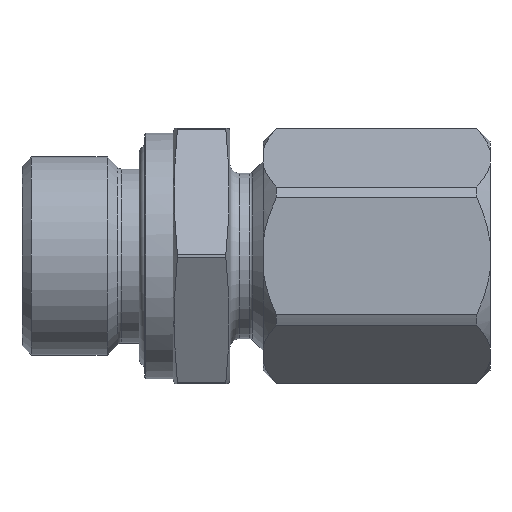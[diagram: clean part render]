
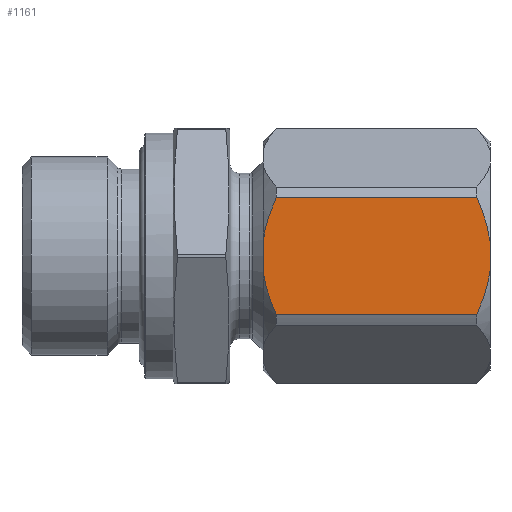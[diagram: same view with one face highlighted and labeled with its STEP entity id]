
A CAD part, front view. The second image highlights one B-rep face of the part: STEP entity #1161.
In plain terms, the highlighted planar face has unit normal (0, -1, 0).
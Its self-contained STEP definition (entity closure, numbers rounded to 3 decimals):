
#117=PLANE('',#1541);
#157=FACE_OUTER_BOUND('',#463,.T.);
#193=LINE('',#2315,#239);
#194=LINE('',#2317,#240);
#198=LINE('',#2397,#244);
#206=LINE('',#2408,#252);
#239=VECTOR('',#1841,1.);
#240=VECTOR('',#1844,1.);
#244=VECTOR('',#1876,1.);
#252=VECTOR('',#1888,1.);
#312=B_SPLINE_CURVE_WITH_KNOTS('',3,(#2265,#2266,#2267,#2268),
 .UNSPECIFIED.,.F.,.F.,(4,4),(0.,1.),.UNSPECIFIED.);
#313=B_SPLINE_CURVE_WITH_KNOTS('',3,(#2272,#2273,#2274,#2275),
 .UNSPECIFIED.,.F.,.F.,(4,4),(0.,1.),.UNSPECIFIED.);
#324=B_SPLINE_CURVE_WITH_KNOTS('',3,(#2378,#2379,#2380,#2381),
 .UNSPECIFIED.,.F.,.F.,(4,4),(0.,1.),.UNSPECIFIED.);
#325=B_SPLINE_CURVE_WITH_KNOTS('',3,(#2383,#2384,#2385,#2386),
 .UNSPECIFIED.,.F.,.F.,(4,4),(0.,1.),.UNSPECIFIED.);
#463=EDGE_LOOP('',(#742,#743,#744,#745,#746,#747,#748,#749));
#742=ORIENTED_EDGE('',*,*,#963,.T.);
#743=ORIENTED_EDGE('',*,*,#969,.F.);
#744=ORIENTED_EDGE('',*,*,#964,.T.);
#745=ORIENTED_EDGE('',*,*,#946,.T.);
#746=ORIENTED_EDGE('',*,*,#927,.T.);
#747=ORIENTED_EDGE('',*,*,#978,.T.);
#748=ORIENTED_EDGE('',*,*,#925,.T.);
#749=ORIENTED_EDGE('',*,*,#945,.T.);
#925=EDGE_CURVE('',#1357,#1356,#312,.T.);
#927=EDGE_CURVE('',#1358,#1359,#313,.T.);
#945=EDGE_CURVE('',#1356,#1371,#193,.T.);
#946=EDGE_CURVE('',#1372,#1358,#194,.T.);
#963=EDGE_CURVE('',#1371,#1383,#324,.T.);
#964=EDGE_CURVE('',#1384,#1372,#325,.T.);
#969=EDGE_CURVE('',#1384,#1383,#198,.T.);
#978=EDGE_CURVE('',#1359,#1357,#206,.T.);
#1161=ADVANCED_FACE('',(#157),#117,.T.);
#1356=VERTEX_POINT('',#2264);
#1357=VERTEX_POINT('',#2269);
#1358=VERTEX_POINT('',#2276);
#1359=VERTEX_POINT('',#2277);
#1371=VERTEX_POINT('',#2314);
#1372=VERTEX_POINT('',#2318);
#1383=VERTEX_POINT('',#2377);
#1384=VERTEX_POINT('',#2387);
#1541=AXIS2_PLACEMENT_3D('',#2414,#1898,#1899);
#1841=DIRECTION('',(-1.,0.,0.));
#1844=DIRECTION('',(1.,0.,0.));
#1876=DIRECTION('',(0.,0.,1.));
#1888=DIRECTION('',(0.,0.,1.));
#1898=DIRECTION('',(0.,-1.,0.));
#1899=DIRECTION('',(0.,0.,-1.));
#2264=CARTESIAN_POINT('',(48.1,-12.,6.185));
#2265=CARTESIAN_POINT('',(49.5,-12.,1.552));
#2266=CARTESIAN_POINT('',(49.295,-12.,3.147));
#2267=CARTESIAN_POINT('',(48.772,-12.,4.719));
#2268=CARTESIAN_POINT('',(48.1,-12.,6.185));
#2269=CARTESIAN_POINT('',(49.5,-12.,1.552));
#2272=CARTESIAN_POINT('',(48.1,-12.,-6.185));
#2273=CARTESIAN_POINT('',(48.778,-12.,-4.705));
#2274=CARTESIAN_POINT('',(49.292,-12.,-3.173));
#2275=CARTESIAN_POINT('',(49.5,-12.,-1.552));
#2276=CARTESIAN_POINT('',(48.1,-12.,-6.185));
#2277=CARTESIAN_POINT('',(49.5,-12.,-1.552));
#2314=CARTESIAN_POINT('',(26.9,-12.,6.185));
#2315=CARTESIAN_POINT('',(25.5,-12.,6.185));
#2317=CARTESIAN_POINT('',(25.5,-12.,-6.185));
#2318=CARTESIAN_POINT('',(26.9,-12.,-6.185));
#2377=CARTESIAN_POINT('',(25.5,-12.,1.552));
#2378=CARTESIAN_POINT('',(26.9,-12.,6.185));
#2379=CARTESIAN_POINT('',(26.222,-12.,4.705));
#2380=CARTESIAN_POINT('',(25.708,-12.,3.173));
#2381=CARTESIAN_POINT('',(25.5,-12.,1.552));
#2383=CARTESIAN_POINT('',(25.5,-12.,-1.552));
#2384=CARTESIAN_POINT('',(25.705,-12.,-3.147));
#2385=CARTESIAN_POINT('',(26.228,-12.,-4.719));
#2386=CARTESIAN_POINT('',(26.9,-12.,-6.185));
#2387=CARTESIAN_POINT('',(25.5,-12.,-1.552));
#2397=CARTESIAN_POINT('',(25.5,-12.,-6.928));
#2408=CARTESIAN_POINT('',(49.5,-12.,0.));
#2414=CARTESIAN_POINT('',(83.156,-12.,-6.928));
